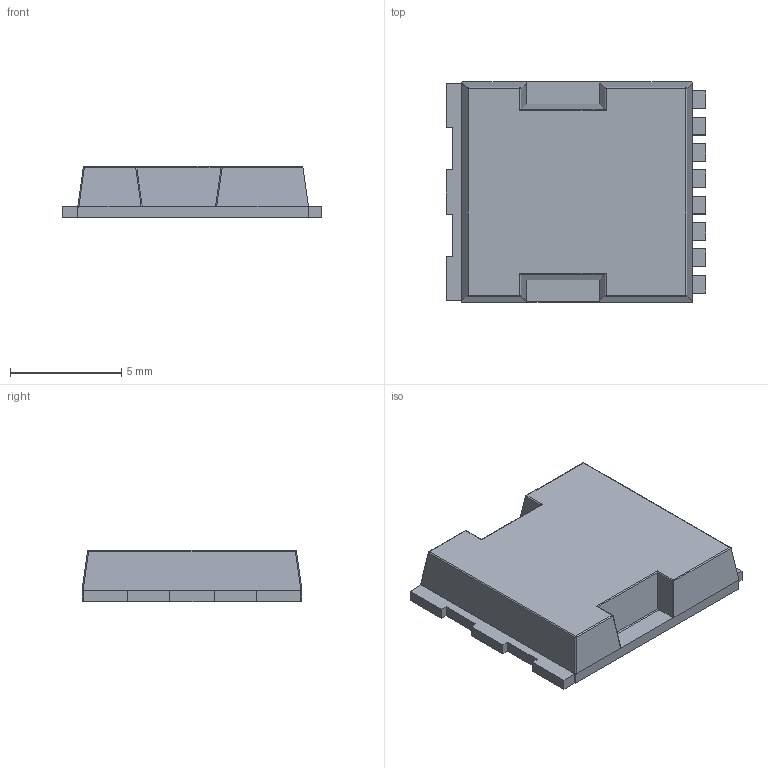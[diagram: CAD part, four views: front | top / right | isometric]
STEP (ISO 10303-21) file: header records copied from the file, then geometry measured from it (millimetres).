
FILE_DESCRIPTION(/* description */ (''),/* implementation_level */ '2;1');
FILE_NAME(/* name */ 'P255-TOLL-.stp',/* time_stamp */ '2022-04-22T16:13:48+02:00',/* author */ (''),/* organization */ (''),/* preprocessor_version */ 'ST-DEVELOPER v14',/* originating_system */ 'SIEMENS PLM Software NX 8.0',/* authorisation */ '');
FILE_SCHEMA (('AUTOMOTIVE_DESIGN { 1 0 10303 214 3 1 1 1 }'));
Length unit declared in the file: millimetre
Products named in the file (1): P255-TOLL-body
Bounding box: 11.68 x 9.9 x 2.31 mm (x, y, z)
Volume: 219.8 mm3; surface area: 485.2 mm2
Topology: 4 solids, 4 shells, 174 faces, 475 edges, 303 vertices
Faces by surface type: plane 150, cylinder 18, sphere 6
Entity records: 5374 total; most frequent: CARTESIAN_POINT 947, ORIENTED_EDGE 938, DIRECTION 852, EDGE_CURVE 469, LINE 436, VECTOR 436, VERTEX_POINT 303, AXIS2_PLACEMENT_3D 208
